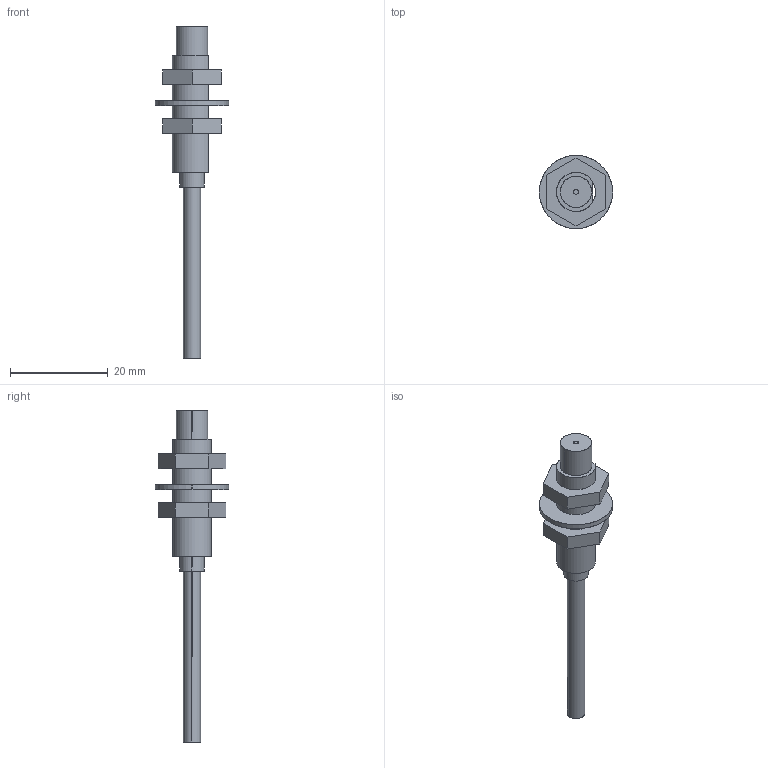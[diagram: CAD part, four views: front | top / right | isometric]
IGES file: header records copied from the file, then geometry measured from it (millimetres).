
Start section: SolidWorks IGES FILE using analytic representation for surfaces
Global section: file name: \\intra-srv04\開発データ\CAD_Data\CAD委員会\3D電子ｶﾀﾛｸﾞ\製品カタログ（新）\0_IGES\GX-8ML.IGS,41HSolidWorks 2004; native system: by SolidWorks Corporation; preprocessor: Version 5.3; author: yk0651; date: 050907.101955; units: millimetre
Bounding box: 15 x 15 x 68 mm (x, y, z)
Surface area: 2272.1 mm2 (no closed solid volume)
Topology: 0 solids, 0 shells, 46 faces, 744 edges, 744 vertices
Faces by surface type: bspline 28, revolution 18
